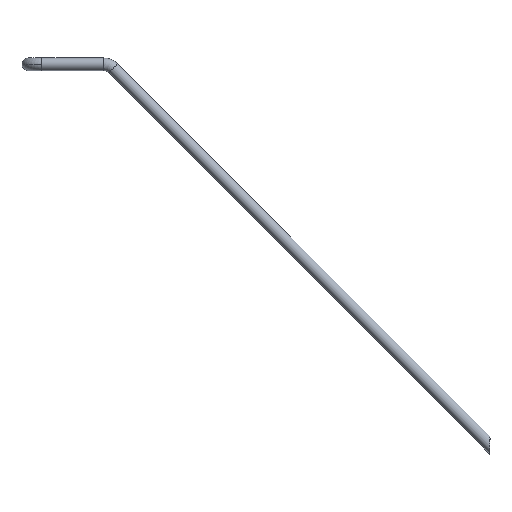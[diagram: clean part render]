
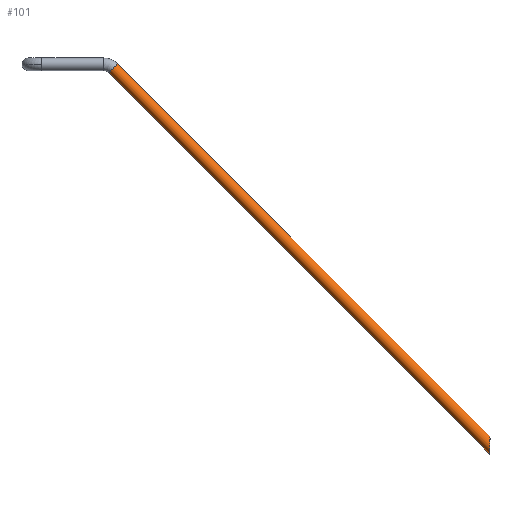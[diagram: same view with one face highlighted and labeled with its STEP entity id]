
A CAD part, front view. The second image highlights one B-rep face of the part: STEP entity #101.
In plain terms, the highlighted cylindrical face has radius 13.45 mm (diameter 26.9 mm), a partial arc.
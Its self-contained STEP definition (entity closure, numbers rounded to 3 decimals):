
#6 = ORIENTED_EDGE ( 'NONE', *, *, #315, .T. ) ;
#16 = LINE ( 'NONE', #419, #643 ) ;
#31 = ORIENTED_EDGE ( 'NONE', *, *, #515, .T. ) ;
#91 = LINE ( 'NONE', #496, #453 ) ;
#101 = ADVANCED_FACE ( 'NONE', ( #449 ), #231, .T. ) ;
#111 = VERTEX_POINT ( 'NONE', #625 ) ;
#114 = VERTEX_POINT ( 'NONE', #557 ) ;
#127 = ORIENTED_EDGE ( 'NONE', *, *, #595, .F. ) ;
#145 = AXIS2_PLACEMENT_3D ( 'NONE', #307, #465, #300 ) ;
#188 = DIRECTION ( 'NONE',  ( -0.707, 0., -0.707 ) ) ;
#197 = DIRECTION ( 'NONE',  ( 0.707, 0., -0.707 ) ) ;
#231 = CYLINDRICAL_SURFACE ( 'NONE', #235, 13.45 ) ;
#235 = AXIS2_PLACEMENT_3D ( 'NONE', #441, #657, #188 ) ;
#269 = VERTEX_POINT ( 'NONE', #524 ) ;
#300 = DIRECTION ( 'NONE',  ( -0.707, 0., -0.707 ) ) ;
#307 = CARTESIAN_POINT ( 'NONE',  ( 6226.494, 3575., 5767.356 ) ) ;
#315 = EDGE_CURVE ( 'NONE', #438, #269, #91, .T. ) ;
#398 = CARTESIAN_POINT ( 'NONE',  ( 7032.542, 3548.1, 4980.33 ) ) ;
#399 = EDGE_CURVE ( 'NONE', #269, #114, #408, .T. ) ;
#406 = CARTESIAN_POINT ( 'NONE',  ( 6216.983, 3575., 5757.846 ) ) ;
#408 =( BOUNDED_CURVE ( )  B_SPLINE_CURVE ( 3, ( #659, #502, #398, #608 ),
 .UNSPECIFIED., .F., .T. ) 
 B_SPLINE_CURVE_WITH_KNOTS ( ( 4, 4 ),
 ( 0., 3.142 ),
 .UNSPECIFIED. ) 
 CURVE ( )  GEOMETRIC_REPRESENTATION_ITEM ( )  RATIONAL_B_SPLINE_CURVE ( ( 1., 0.333, 0.333, 1. ) ) 
 REPRESENTATION_ITEM ( '' )  );
#419 = CARTESIAN_POINT ( 'NONE',  ( 6236.004, 3575., 5776.867 ) ) ;
#438 = VERTEX_POINT ( 'NONE', #406 ) ;
#441 = CARTESIAN_POINT ( 'NONE',  ( 6226.494, 3575., 5767.356 ) ) ;
#449 = FACE_OUTER_BOUND ( 'NONE', #470, .T. ) ;
#453 = VECTOR ( 'NONE', #576, 1000. ) ;
#465 = DIRECTION ( 'NONE',  ( 0.707, 0., -0.707 ) ) ;
#470 = EDGE_LOOP ( 'NONE', ( #127, #31, #6, #579 ) ) ;
#496 = CARTESIAN_POINT ( 'NONE',  ( 6216.983, 3575., 5757.846 ) ) ;
#502 = CARTESIAN_POINT ( 'NONE',  ( 7032.542, 3548.1, 4942.287 ) ) ;
#515 = EDGE_CURVE ( 'NONE', #111, #438, #607, .T. ) ;
#524 = CARTESIAN_POINT ( 'NONE',  ( 7032.542, 3575., 4942.287 ) ) ;
#557 = CARTESIAN_POINT ( 'NONE',  ( 7032.542, 3575., 4980.33 ) ) ;
#576 = DIRECTION ( 'NONE',  ( 0.707, 0., -0.707 ) ) ;
#579 = ORIENTED_EDGE ( 'NONE', *, *, #399, .T. ) ;
#595 = EDGE_CURVE ( 'NONE', #111, #114, #16, .T. ) ;
#607 = CIRCLE ( 'NONE', #145, 13.45 ) ;
#608 = CARTESIAN_POINT ( 'NONE',  ( 7032.542, 3575., 4980.33 ) ) ;
#625 = CARTESIAN_POINT ( 'NONE',  ( 6236.004, 3575., 5776.867 ) ) ;
#643 = VECTOR ( 'NONE', #197, 1000. ) ;
#657 = DIRECTION ( 'NONE',  ( 0.707, 0., -0.707 ) ) ;
#659 = CARTESIAN_POINT ( 'NONE',  ( 7032.542, 3575., 4942.287 ) ) ;
